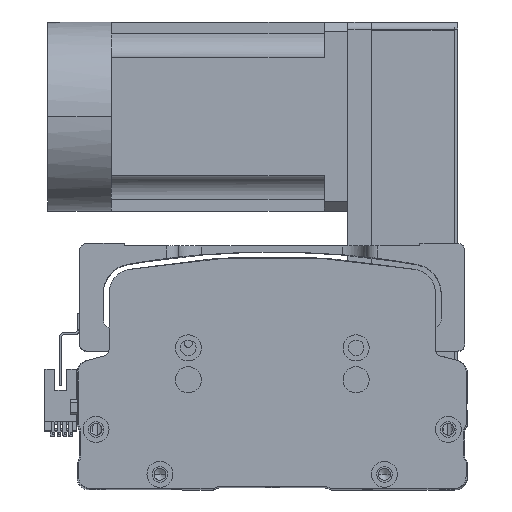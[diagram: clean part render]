
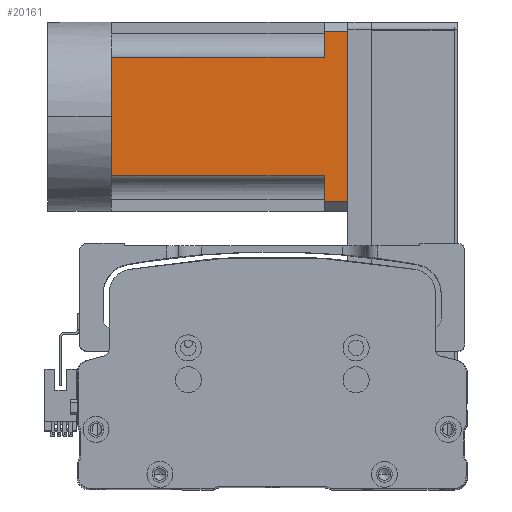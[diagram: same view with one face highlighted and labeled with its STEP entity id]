
A CAD part, top view. The second image highlights one B-rep face of the part: STEP entity #20161.
In plain terms, the highlighted planar face has unit normal (0, 0, 1) as drawn and (0, 0, -1) by its records, which use the part's own axes.
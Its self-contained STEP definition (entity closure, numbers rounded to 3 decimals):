
#442 = DIRECTION ( 'NONE',  ( 0., 0., -1. ) ) ;
#919 = DIRECTION ( 'NONE',  ( -1., 0., 0. ) ) ;
#1582 = VERTEX_POINT ( 'NONE', #58203 ) ;
#1881 = CARTESIAN_POINT ( 'NONE',  ( -40., 100., -40. ) ) ;
#2070 = DIRECTION ( 'NONE',  ( -1., 0., 0. ) ) ;
#2300 = EDGE_CURVE ( 'NONE', #45123, #10063, #59561, .T. ) ;
#2431 = VECTOR ( 'NONE', #2070, 1000. ) ;
#3033 = CARTESIAN_POINT ( 'NONE',  ( -25., 0., -40. ) ) ;
#3683 = EDGE_CURVE ( 'NONE', #41203, #45123, #36381, .T. ) ;
#5148 = VECTOR ( 'NONE', #10838, 1000. ) ;
#6349 = VECTOR ( 'NONE', #39269, 1000. ) ;
#6601 = CARTESIAN_POINT ( 'NONE',  ( -36., 90., -40. ) ) ;
#6823 = EDGE_LOOP ( 'NONE', ( #40736, #11564, #20373, #10941, #31846, #24345, #8949, #37754, #48308 ) ) ;
#6864 = CARTESIAN_POINT ( 'NONE',  ( -25., 90., -40. ) ) ;
#7054 = EDGE_CURVE ( 'NONE', #10063, #12418, #18614, .T. ) ;
#7398 = DIRECTION ( 'NONE',  ( -1., 0., 0. ) ) ;
#8392 = DIRECTION ( 'NONE',  ( -1., 0., 0. ) ) ;
#8842 = LINE ( 'NONE', #28501, #31891 ) ;
#8949 = ORIENTED_EDGE ( 'NONE', *, *, #13526, .T. ) ;
#9478 = LINE ( 'NONE', #53289, #44801 ) ;
#9507 = PLANE ( 'NONE',  #24618 ) ;
#10063 = VERTEX_POINT ( 'NONE', #17711 ) ;
#10838 = DIRECTION ( 'NONE',  ( -1., 0., 0. ) ) ;
#10941 = ORIENTED_EDGE ( 'NONE', *, *, #7054, .T. ) ;
#11564 = ORIENTED_EDGE ( 'NONE', *, *, #3683, .T. ) ;
#12418 = VERTEX_POINT ( 'NONE', #59548 ) ;
#12571 = CARTESIAN_POINT ( 'NONE',  ( 0., 0., -40. ) ) ;
#13526 = EDGE_CURVE ( 'NONE', #47644, #38505, #25595, .T. ) ;
#17711 = CARTESIAN_POINT ( 'NONE',  ( 25., 90., -40. ) ) ;
#18016 = DIRECTION ( 'NONE',  ( 0., -1., 0. ) ) ;
#18614 = LINE ( 'NONE', #48369, #6349 ) ;
#18769 = CARTESIAN_POINT ( 'NONE',  ( -40., -27., -40. ) ) ;
#20161 = ADVANCED_FACE ( 'NONE', ( #21377 ), #9507, .T. ) ;
#20373 = ORIENTED_EDGE ( 'NONE', *, *, #2300, .T. ) ;
#21199 = EDGE_CURVE ( 'NONE', #47163, #47644, #8842, .T. ) ;
#21377 = FACE_OUTER_BOUND ( 'NONE', #6823, .T. ) ;
#24345 = ORIENTED_EDGE ( 'NONE', *, *, #21199, .T. ) ;
#24618 = AXIS2_PLACEMENT_3D ( 'NONE', #18769, #442, #32656 ) ;
#25480 = CARTESIAN_POINT ( 'NONE',  ( -36., -27., -40. ) ) ;
#25595 = LINE ( 'NONE', #37171, #36370 ) ;
#26073 = LINE ( 'NONE', #25480, #50583 ) ;
#26707 = CARTESIAN_POINT ( 'NONE',  ( -40., 90., -40. ) ) ;
#28501 = CARTESIAN_POINT ( 'NONE',  ( -40., 0., -40. ) ) ;
#30669 = EDGE_CURVE ( 'NONE', #38505, #59155, #40450, .T. ) ;
#30742 = CARTESIAN_POINT ( 'NONE',  ( 36., 90., -40. ) ) ;
#31846 = ORIENTED_EDGE ( 'NONE', *, *, #59232, .T. ) ;
#31891 = VECTOR ( 'NONE', #919, 1000. ) ;
#32336 = DIRECTION ( 'NONE',  ( 0., 1., 0. ) ) ;
#32656 = DIRECTION ( 'NONE',  ( -1., 0., 0. ) ) ;
#35087 = VECTOR ( 'NONE', #8392, 1000. ) ;
#36370 = VECTOR ( 'NONE', #32336, 1000. ) ;
#36381 = LINE ( 'NONE', #45651, #47256 ) ;
#37171 = CARTESIAN_POINT ( 'NONE',  ( -25., -27., -40. ) ) ;
#37754 = ORIENTED_EDGE ( 'NONE', *, *, #30669, .T. ) ;
#38258 = CARTESIAN_POINT ( 'NONE',  ( 36., 100., -40. ) ) ;
#38505 = VERTEX_POINT ( 'NONE', #6864 ) ;
#39269 = DIRECTION ( 'NONE',  ( 0., -1., 0. ) ) ;
#40450 = LINE ( 'NONE', #43053, #5148 ) ;
#40617 = LINE ( 'NONE', #1881, #2431 ) ;
#40736 = ORIENTED_EDGE ( 'NONE', *, *, #58015, .F. ) ;
#41203 = VERTEX_POINT ( 'NONE', #38258 ) ;
#43053 = CARTESIAN_POINT ( 'NONE',  ( -40., 90., -40. ) ) ;
#44801 = VECTOR ( 'NONE', #7398, 1000. ) ;
#45123 = VERTEX_POINT ( 'NONE', #30742 ) ;
#45651 = CARTESIAN_POINT ( 'NONE',  ( 36., -27., -40. ) ) ;
#47163 = VERTEX_POINT ( 'NONE', #12571 ) ;
#47256 = VECTOR ( 'NONE', #18016, 1000. ) ;
#47644 = VERTEX_POINT ( 'NONE', #3033 ) ;
#48308 = ORIENTED_EDGE ( 'NONE', *, *, #53922, .T. ) ;
#48369 = CARTESIAN_POINT ( 'NONE',  ( 25., -27., -40. ) ) ;
#48469 = DIRECTION ( 'NONE',  ( 0., 1., 0. ) ) ;
#50583 = VECTOR ( 'NONE', #48469, 1000. ) ;
#53289 = CARTESIAN_POINT ( 'NONE',  ( -40., 0., -40. ) ) ;
#53922 = EDGE_CURVE ( 'NONE', #59155, #1582, #26073, .T. ) ;
#58015 = EDGE_CURVE ( 'NONE', #41203, #1582, #40617, .T. ) ;
#58203 = CARTESIAN_POINT ( 'NONE',  ( -36., 100., -40. ) ) ;
#59155 = VERTEX_POINT ( 'NONE', #6601 ) ;
#59232 = EDGE_CURVE ( 'NONE', #12418, #47163, #9478, .T. ) ;
#59548 = CARTESIAN_POINT ( 'NONE',  ( 25., 0., -40. ) ) ;
#59561 = LINE ( 'NONE', #26707, #35087 ) ;
